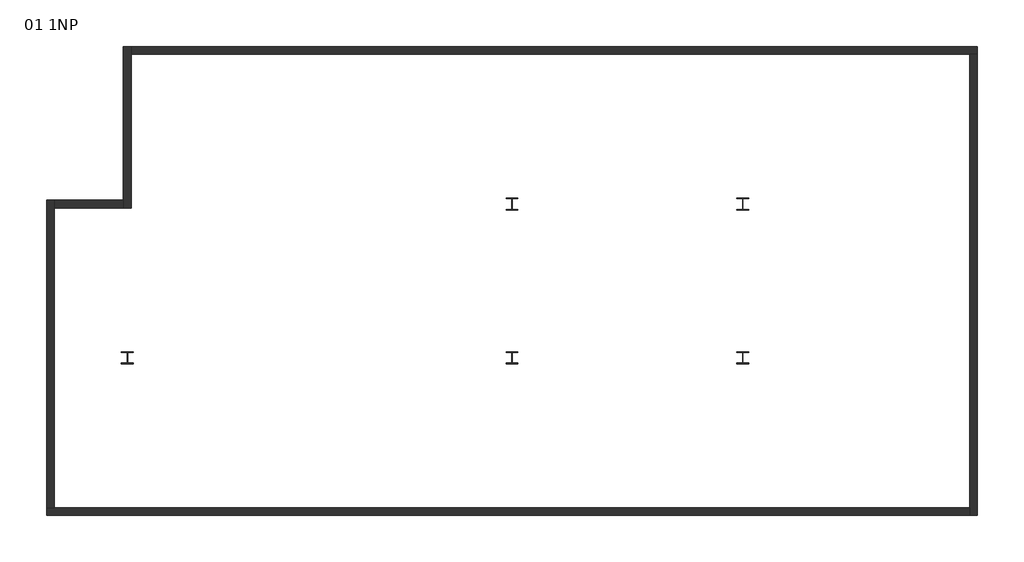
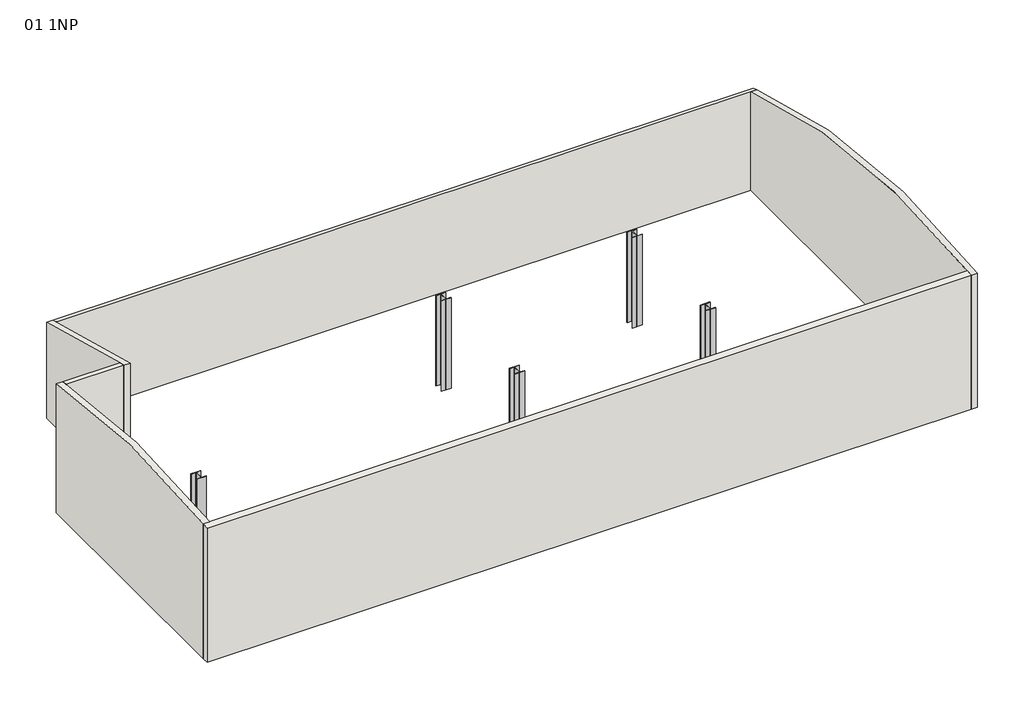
# One storey: 6 walls, 5 columns.
"""IFC4 building model written with IfcOpenShell, lengths in millimetres."""

from ifc_helpers import new_model, si_unit, point, frame, frame_2d, origin, place, context, project, spatial, polyline, circle_curve, trimmed, segment, composite_curve, outline, extrude, transform, mapped, element, save
from ifc_brep_helpers import plane_surface, cylinder_surface, advanced_brep
from components import column_305x305x97_616d0abd

model = new_model("IFC4")

# Units and contexts
model_context = context("Model", 3, world=origin())
ifc_project = project(units=[si_unit("LENGTHUNIT", "METRE", prefix="MILLI")], contexts=[model_context])

# Site, building, storey
site = spatial("IfcSite", under=ifc_project)
building = spatial("IfcBuilding", under=site)
storey = spatial("IfcBuildingStorey", under=building, Name="01 1NP", Elevation=0.0)

# Columns
placement = place(None, origin())
column_305x305x97_shape = column_305x305x97_616d0abd(model_context)
element("IfcColumn", 1, ObjectType="Ocel.sloup I : 305x305x97", at=placement, inside=storey, context=model_context, shape_type="MappedRepresentation", body=[
    mapped(column_305x305x97_shape, transform((23544.798415, 10607.8779697, 0.0), x_axis=(1.0, 0.0, 0.0), y_axis=(0.0, 1.0, 0.0), z_axis=(0.0, 0.0, 1.0))),
])
element("IfcColumn", 2, ObjectType="Ocel.sloup I : 305x305x97", at=placement, inside=storey, context=model_context, shape_type="MappedRepresentation", body=[
    mapped(column_305x305x97_shape, transform((33544.798415, 14607.8779697, 0.0), x_axis=(1.0, 0.0, 0.0), y_axis=(0.0, 1.0, 0.0), z_axis=(0.0, 0.0, 1.0))),
])
element("IfcColumn", 3, ObjectType="Ocel.sloup I : 305x305x97", at=placement, inside=storey, context=model_context, shape_type="MappedRepresentation", body=[
    mapped(column_305x305x97_shape, transform((33544.798415, 10607.8779697, 0.0), x_axis=(1.0, 0.0, 0.0), y_axis=(0.0, 1.0, 0.0), z_axis=(0.0, 0.0, 1.0))),
])
element("IfcColumn", 4, ObjectType="Ocel.sloup I : 305x305x97", at=placement, inside=storey, context=model_context, shape_type="MappedRepresentation", body=[
    mapped(column_305x305x97_shape, transform((39544.798415, 10607.8779697, 0.0), x_axis=(1.0, 0.0, 0.0), y_axis=(0.0, 1.0, 0.0), z_axis=(0.0, 0.0, 1.0))),
])
element("IfcColumn", 5, ObjectType="Ocel.sloup I : 305x305x97", at=placement, inside=storey, context=model_context, shape_type="MappedRepresentation", body=[
    mapped(column_305x305x97_shape, transform((39544.798415, 14607.8779697, 0.0), x_axis=(1.0, 0.0, 0.0), y_axis=(0.0, 1.0, 0.0), z_axis=(0.0, 0.0, 1.0))),
])

# Walls
element("IfcWall", 6, ObjectType="Standardní 200mm", at=placement, inside=storey, context=model_context, shape_type="AdvancedBrep", body=[
    advanced_brep(
    [(23644.798415, 14507.8779697, 0.0), (23644.798415, 18507.8779697, 0.0), (23644.798415, 18707.8779697, 0.0), (23644.798415, 18707.8779697, 3195.1504903), (23644.798415, 18507.8631783, 3265.9844051), (23644.798415, 14507.8779697, 4310.9344172), (23444.798415, 14507.8779697, 0.0), (23444.798415, 14507.8779697, 4310.9344172), (23444.798415, 14707.8932011, 4274.7867683), (23444.798415, 18707.8779697, 3195.1504903), (23444.798415, 18707.8779697, 0.0), (23444.798415, 14707.8779697, 0.0)],
    [
        (0, 1),
        (1, 2),
        (2, 3),
        (3, 4, circle_curve(frame((23644.798415, 10047.4024556, -20941.700403), z_axis=(1.0, 0.0, 0.0), x_axis=(0.0, 1.0, 0.0)), 25643.5451367)),
        (4, 5, circle_curve(frame((23644.798415, 10047.4024556, -20941.700403), z_axis=(1.0, 0.0, 0.0), x_axis=(0.0, 1.0, 0.0)), 25643.5449852)),
        (5, 0),
        (6, 7),
        (7, 8, circle_curve(frame((23444.798415, 10047.4024556, -20941.700403), z_axis=(-1.0, 0.0, 0.0), x_axis=(0.0, 1.0, 0.0)), 25643.5451367)),
        (8, 9, circle_curve(frame((23444.798415, 10047.4024556, -20941.700403), z_axis=(-1.0, 0.0, 0.0), x_axis=(0.0, 1.0, 0.0)), 25643.5449821)),
        (9, 10),
        (10, 11),
        (11, 6),
        (0, 6),
        (10, 2),
        (9, 3),
        (5, 7),
    ],
    [
        plane_surface(frame((23644.798415, 14607.8779697, 0.0), z_axis=(1.0, 0.0, 0.0), x_axis=(0.0, 1.0, 0.0))),
        plane_surface(frame((23444.798415, 14607.8779697, 0.0), z_axis=(-1.0, 0.0, 0.0), x_axis=(0.0, -1.0, 0.0))),
        plane_surface(frame((23644.798415, 14607.8779697, 0.0), z_axis=(0.0, 0.0, -1.0), x_axis=(-1.0, 0.0, 0.0))),
        plane_surface(frame((27544.798415, 18707.8779697, 0.0), z_axis=(0.0, 1.0, 0.0), x_axis=(-1.0, 0.0, 0.0))),
        plane_surface(frame((21544.798415, 14507.8779697, 0.0), z_axis=(0.0, -1.0, 0.0), x_axis=(1.0, 0.0, 0.0))),
        cylinder_surface(frame((45694.798415, 10047.4024556, -20941.700403), z_axis=(1.0, 0.0, 0.0), x_axis=(0.0, 1.0, 0.0)), 25643.5451367),
    ],
    [
        (0, [[1, 2, 3, 4, 5, 6]]),
        (1, [[7, 8, 9, 10, 11, 12]]),
        (2, [[-2, -1, 13, -12, -11, 14]]),
        (3, [[-3, -14, -10, 15]]),
        (4, [[-6, 16, -7, -13]]),
        (5, [[-5, -4, -15, -9, -8, -16]]),
    ],
),
])
element("IfcWall", 7, ObjectType="Standardní 200mm", at=placement, inside=storey, context=model_context, shape_type="AdvancedBrep", body=[
    advanced_brep(
    [(23644.798415, 18507.8779697, 0.0), (45444.798415, 18507.8779697, 0.0), (45644.798415, 18507.8779697, 0.0), (45644.798415, 18507.8779697, 3265.979396), (45444.798415, 18507.8779697, 3265.979396), (23644.798415, 18507.8779697, 3265.979396), (23644.798415, 18707.8779697, 0.0), (23644.798415, 18707.8779697, 3195.1504903), (45644.798415, 18707.8779697, 3195.1504903), (45644.798415, 18707.8779697, 0.0)],
    [
        (0, 1),
        (1, 2),
        (2, 3),
        (3, 4),
        (4, 5),
        (5, 0),
        (6, 7),
        (7, 8),
        (8, 9),
        (9, 6),
        (0, 6),
        (9, 2),
        (8, 3, circle_curve(frame((45644.798415, 10047.4024556, -20941.700403), z_axis=(1.0, 0.0, 0.0), x_axis=(0.0, 1.0, 0.0)), 25643.5451367)),
        (5, 7, circle_curve(frame((23644.798415, 10047.4024556, -20941.700403), z_axis=(-1.0, 0.0, 0.0), x_axis=(0.0, 1.0, 0.0)), 25643.5451367)),
    ],
    [
        plane_surface(frame((27544.798415, 18507.8779697, 0.0), z_axis=(0.0, -1.0, 0.0), x_axis=(1.0, 0.0, 0.0))),
        plane_surface(frame((27544.798415, 18707.8779697, 0.0), z_axis=(0.0, 1.0, 0.0), x_axis=(-1.0, 0.0, 0.0))),
        plane_surface(frame((23544.798415, 18507.8779697, 0.0), z_axis=(0.0, 0.0, -1.0), x_axis=(0.0, 1.0, 0.0))),
        plane_surface(frame((45644.798415, 18607.8779697, 0.0), z_axis=(1.0, 0.0, 0.0), x_axis=(0.0, 1.0, 0.0))),
        plane_surface(frame((23644.798415, 14607.8779697, 0.0), z_axis=(-1.0, 0.0, 0.0), x_axis=(0.0, 1.0, 0.0))),
        cylinder_surface(frame((45694.798415, 10047.4024556, -20941.700403), z_axis=(1.0, 0.0, 0.0), x_axis=(0.0, 1.0, 0.0)), 25643.5451367),
    ],
    [
        (0, [[1, 2, 3, 4, 5, 6]]),
        (1, [[7, 8, 9, 10]]),
        (2, [[-2, -1, 11, -10, 12]]),
        (3, [[-3, -12, -9, 13]]),
        (4, [[-6, 14, -7, -11]]),
        (5, [[-5, -4, -13, -8, -14]]),
    ],
),
])
element("IfcWall", 8, ObjectType="Standardní 200mm", at=placement, inside=storey, context=model_context, shape_type="AdvancedBrep", body=[
    advanced_brep(
    [(45444.798415, 18507.8779697, 0.0), (45444.798415, 6707.8779697, 0.0), (45444.798415, 6507.8779697, 0.0), (45444.798415, 6507.8779697, 4456.3934938), (45444.798415, 6707.8941195, 4483.4659224), (45444.798415, 18507.8779697, 3265.979396), (45644.798415, 18507.8779697, 0.0), (45644.798415, 18507.8779697, 3265.979396), (45644.798415, 6507.8779697, 4456.3934938), (45644.798415, 6507.8779697, 0.0)],
    [
        (0, 1),
        (1, 2),
        (2, 3),
        (3, 4, circle_curve(frame((45444.798415, 10047.4024556, -20941.700403), z_axis=(-1.0, 0.0, 0.0), x_axis=(0.0, 1.0, 0.0)), 25643.5451367)),
        (4, 5, circle_curve(frame((45444.798415, 10047.4024556, -20941.700403), z_axis=(-1.0, 0.0, 0.0), x_axis=(0.0, 1.0, 0.0)), 25643.5449694)),
        (5, 0),
        (6, 7),
        (7, 8, circle_curve(frame((45644.798415, 10047.4024556, -20941.700403), z_axis=(1.0, 0.0, 0.0), x_axis=(0.0, 1.0, 0.0)), 25643.5451367)),
        (8, 9),
        (9, 6),
        (0, 6),
        (9, 2),
        (8, 3),
        (5, 7),
    ],
    [
        plane_surface(frame((45444.798415, 18607.8779697, 0.0), z_axis=(-1.0, 0.0, 0.0), x_axis=(0.0, -1.0, 0.0))),
        plane_surface(frame((45644.798415, 18607.8779697, 0.0), z_axis=(1.0, 0.0, 0.0), x_axis=(0.0, 1.0, 0.0))),
        plane_surface(frame((45444.798415, 18607.8779697, 0.0), z_axis=(0.0, 0.0, -1.0), x_axis=(1.0, 0.0, 0.0))),
        plane_surface(frame((45544.798415, 6507.8779697, 0.0), z_axis=(0.0, -1.0, 0.0), x_axis=(1.0, 0.0, 0.0))),
        plane_surface(frame((27544.798415, 18507.8779697, 0.0), z_axis=(0.0, 1.0, 0.0), x_axis=(1.0, 0.0, 0.0))),
        cylinder_surface(frame((45694.798415, 10047.4024556, -20941.700403), z_axis=(1.0, 0.0, 0.0), x_axis=(0.0, 1.0, 0.0)), 25643.5451367),
    ],
    [
        (0, [[1, 2, 3, 4, 5, 6]]),
        (1, [[7, 8, 9, 10]]),
        (2, [[-2, -1, 11, -10, 12]]),
        (3, [[-3, -12, -9, 13]]),
        (4, [[-6, 14, -7, -11]]),
        (5, [[-5, -4, -13, -8, -14]]),
    ],
),
])
element("IfcWall", 9, ObjectType="Standardní 200mm", at=placement, inside=storey, context=model_context, shape_type="AdvancedBrep", body=[
    advanced_brep(
    [(45444.798415, 6707.8779697, 0.0), (21644.798415, 6707.8779697, 0.0), (21444.798415, 6707.8779697, 0.0), (21444.798415, 6707.8779697, 4483.4639698), (21644.798415, 6707.8779697, 4483.4639698), (45444.798415, 6707.8779697, 4483.4639698), (45444.798415, 6507.8779697, 0.0), (45444.798415, 6507.8779697, 4456.3934938), (21444.798415, 6507.8779697, 4456.3934938), (21444.798415, 6507.8779697, 0.0)],
    [
        (0, 1),
        (1, 2),
        (2, 3),
        (3, 4),
        (4, 5),
        (5, 0),
        (6, 7),
        (7, 8),
        (8, 9),
        (9, 6),
        (0, 6),
        (9, 2),
        (8, 3, circle_curve(frame((21444.798415, 10047.4024556, -20941.700403), z_axis=(-1.0, 0.0, 0.0), x_axis=(0.0, 1.0, 0.0)), 25643.5451367)),
        (5, 7, circle_curve(frame((45444.798415, 10047.4024556, -20941.700403), z_axis=(1.0, 0.0, 0.0), x_axis=(0.0, 1.0, 0.0)), 25643.5451367)),
    ],
    [
        plane_surface(frame((45544.798415, 6707.8779697, 0.0), z_axis=(0.0, 1.0, 0.0), x_axis=(-1.0, 0.0, 0.0))),
        plane_surface(frame((45544.798415, 6507.8779697, 0.0), z_axis=(0.0, -1.0, 0.0), x_axis=(1.0, 0.0, 0.0))),
        plane_surface(frame((45544.798415, 6707.8779697, 0.0), z_axis=(0.0, 0.0, -1.0), x_axis=(0.0, -1.0, 0.0))),
        plane_surface(frame((21444.798415, 6607.8779697, 0.0), z_axis=(-1.0, 0.0, 0.0), x_axis=(0.0, -1.0, 0.0))),
        plane_surface(frame((45444.798415, 18607.8779697, 0.0), z_axis=(1.0, 0.0, 0.0), x_axis=(0.0, -1.0, 0.0))),
        cylinder_surface(frame((45694.798415, 10047.4024556, -20941.700403), z_axis=(1.0, 0.0, 0.0), x_axis=(0.0, 1.0, 0.0)), 25643.5451367),
    ],
    [
        (0, [[1, 2, 3, 4, 5, 6]]),
        (1, [[7, 8, 9, 10]]),
        (2, [[-2, -1, 11, -10, 12]]),
        (3, [[-3, -12, -9, 13]]),
        (4, [[-6, 14, -7, -11]]),
        (5, [[-5, -4, -13, -8, -14]]),
    ],
),
])
element("IfcWall", 10, ObjectType="Standardní 200mm", at=placement, inside=storey, context=model_context, shape_type="AdvancedBrep", body=[
    advanced_brep(
    [(21644.798415, 6707.8779697, 0.0), (21644.798415, 14507.8779697, 0.0), (21644.798415, 14707.8779697, 0.0), (21644.798415, 14707.8779697, 4274.7897405), (21644.798415, 14507.8633043, 4310.9368608), (21644.798415, 6707.8779697, 4483.4639698), (21444.798415, 6707.8779697, 0.0), (21444.798415, 6707.8779697, 4483.4639698), (21444.798415, 14707.8779697, 4274.7897405), (21444.798415, 14707.8779697, 0.0)],
    [
        (0, 1),
        (1, 2),
        (2, 3),
        (3, 4, circle_curve(frame((21644.798415, 10047.4024556, -20941.700403), z_axis=(1.0, 0.0, 0.0), x_axis=(0.0, 1.0, 0.0)), 25643.5451367)),
        (4, 5, circle_curve(frame((21644.798415, 10047.4024556, -20941.700403), z_axis=(1.0, 0.0, 0.0), x_axis=(0.0, 1.0, 0.0)), 25643.5449921)),
        (5, 0),
        (6, 7),
        (7, 8, circle_curve(frame((21444.798415, 10047.4024556, -20941.700403), z_axis=(-1.0, 0.0, 0.0), x_axis=(0.0, 1.0, 0.0)), 25643.5451367)),
        (8, 9),
        (9, 6),
        (0, 6),
        (9, 2),
        (8, 3),
        (5, 7),
    ],
    [
        plane_surface(frame((21644.798415, 6607.8779697, 0.0), z_axis=(1.0, 0.0, 0.0), x_axis=(0.0, 1.0, 0.0))),
        plane_surface(frame((21444.798415, 6607.8779697, 0.0), z_axis=(-1.0, 0.0, 0.0), x_axis=(0.0, -1.0, 0.0))),
        plane_surface(frame((21644.798415, 6607.8779697, 0.0), z_axis=(0.0, 0.0, -1.0), x_axis=(-1.0, 0.0, 0.0))),
        plane_surface(frame((21544.798415, 14707.8779697, 0.0), z_axis=(0.0, 1.0, 0.0), x_axis=(-1.0, 0.0, 0.0))),
        plane_surface(frame((45544.798415, 6707.8779697, 0.0), z_axis=(0.0, -1.0, 0.0), x_axis=(-1.0, 0.0, 0.0))),
        cylinder_surface(frame((45694.798415, 10047.4024556, -20941.700403), z_axis=(1.0, 0.0, 0.0), x_axis=(0.0, 1.0, 0.0)), 25643.5451367),
    ],
    [
        (0, [[1, 2, 3, 4, 5, 6]]),
        (1, [[7, 8, 9, 10]]),
        (2, [[-2, -1, 11, -10, 12]]),
        (3, [[-3, -12, -9, 13]]),
        (4, [[-6, 14, -7, -11]]),
        (5, [[-5, -4, -13, -8, -14]]),
    ],
),
])
element("IfcWall", 11, ObjectType="Standardní 200mm", at=placement, inside=storey, context=model_context, shape_type="SweptSolid", body=[
    extrude(outline(composite_curve([segment(polyline([(14507.8779697, 0.0), (14507.8779697, 4310.9344172)]), True, "CONTINUOUS"), segment(trimmed(circle_curve(frame_2d((10047.4024556, -20941.700403)), 25643.5451367), [point((14507.8779697, 4310.9344172))], [point((14707.8779697, 4274.7897405))], False, "CARTESIAN"), True, "CONTINUOUS"), segment(polyline([(14707.8779697, 4274.7897405), (14707.8779697, 0.0), (14507.8779697, 0.0)]), True, "CONTINUOUS")], self_intersect=False)), frame((21644.798415, 0.0, 0.0), z_axis=(1.0, 0.0, 0.0), x_axis=(0.0, 1.0, 0.0)), (0.0, 0.0, 1.0), 1800.0),
])

save(model, "model.ifc")
